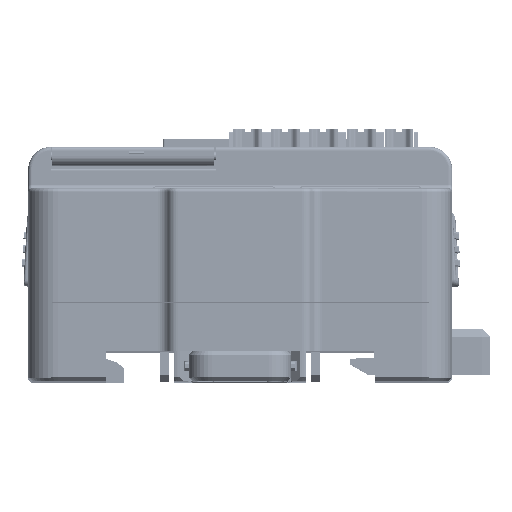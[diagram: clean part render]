
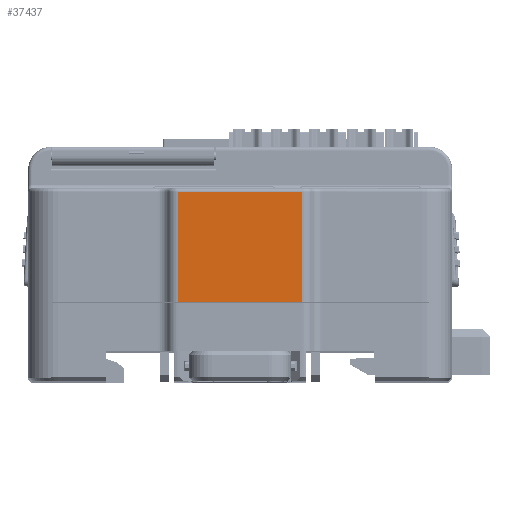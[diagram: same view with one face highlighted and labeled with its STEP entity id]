
A CAD part, top view. The second image highlights one B-rep face of the part: STEP entity #37437.
In plain terms, the highlighted planar face has unit normal (0, 0, 1).
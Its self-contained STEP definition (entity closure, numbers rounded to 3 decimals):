
#3945=B_SPLINE_CURVE_WITH_KNOTS('',3,(#877670,#877671,#877672,#877673),
 .UNSPECIFIED.,.F.,.F.,(4,4),(0.,1.),.UNSPECIFIED.);
#3946=B_SPLINE_CURVE_WITH_KNOTS('',1,(#877675,#877676,#877677,#877678,#877679,
#877680),.UNSPECIFIED.,.F.,.F.,(2,1,1,1,1,2),(0.,0.115,0.204,
0.796,0.885,1.),.UNSPECIFIED.);
#37437=ADVANCED_FACE('',(#95524),#72027,.T.);
#72027=PLANE('',#648995);
#95524=FACE_OUTER_BOUND('',#128909,.T.);
#128909=EDGE_LOOP('',(#166821,#166822,#166823,#166824));
#166821=ORIENTED_EDGE('',*,*,#413088,.T.);
#166822=ORIENTED_EDGE('',*,*,#413229,.F.);
#166823=ORIENTED_EDGE('',*,*,#412705,.F.);
#166824=ORIENTED_EDGE('',*,*,#413230,.T.);
#352527=VERTEX_POINT('',#876010);
#352528=VERTEX_POINT('',#876012);
#352837=VERTEX_POINT('',#877270);
#352840=VERTEX_POINT('',#877281);
#412705=EDGE_CURVE('',#352527,#352528,#506126,.T.);
#413088=EDGE_CURVE('',#352837,#352840,#506403,.T.);
#413229=EDGE_CURVE('',#352528,#352840,#3945,.T.);
#413230=EDGE_CURVE('',#352527,#352837,#3946,.T.);
#506126=LINE('',#876011,#577456);
#506403=LINE('',#877282,#577733);
#577456=VECTOR('',#700938,1.);
#577733=VECTOR('',#701427,1.);
#648995=AXIS2_PLACEMENT_3D('',#877681,#701721,#701722);
#700938=DIRECTION('',(-1.,0.,0.));
#701427=DIRECTION('',(-1.,0.,0.));
#701721=DIRECTION('',(0.,0.,1.));
#701722=DIRECTION('',(-1.,0.,0.));
#876010=CARTESIAN_POINT('',(-196.391,158.747,-150.362));
#876011=CARTESIAN_POINT('',(-176.588,158.747,-150.362));
#876012=CARTESIAN_POINT('',(-212.785,158.747,-150.362));
#877270=CARTESIAN_POINT('',(-196.391,173.342,-150.362));
#877281=CARTESIAN_POINT('',(-212.785,173.342,-150.362));
#877282=CARTESIAN_POINT('',(-196.391,173.342,-150.362));
#877670=CARTESIAN_POINT('',(-212.785,158.747,-150.362));
#877671=CARTESIAN_POINT('',(-212.785,163.612,-150.362));
#877672=CARTESIAN_POINT('',(-212.785,168.477,-150.362));
#877673=CARTESIAN_POINT('',(-212.785,173.342,-150.362));
#877675=CARTESIAN_POINT('',(-196.391,151.232,-150.362));
#877676=CARTESIAN_POINT('',(-196.391,154.293,-150.362));
#877677=CARTESIAN_POINT('',(-196.391,156.647,-150.362));
#877678=CARTESIAN_POINT('',(-196.391,172.342,-150.362));
#877679=CARTESIAN_POINT('',(-196.391,174.696,-150.362));
#877680=CARTESIAN_POINT('',(-196.391,177.756,-150.362));
#877681=CARTESIAN_POINT('',(-196.391,172.342,-150.362));
